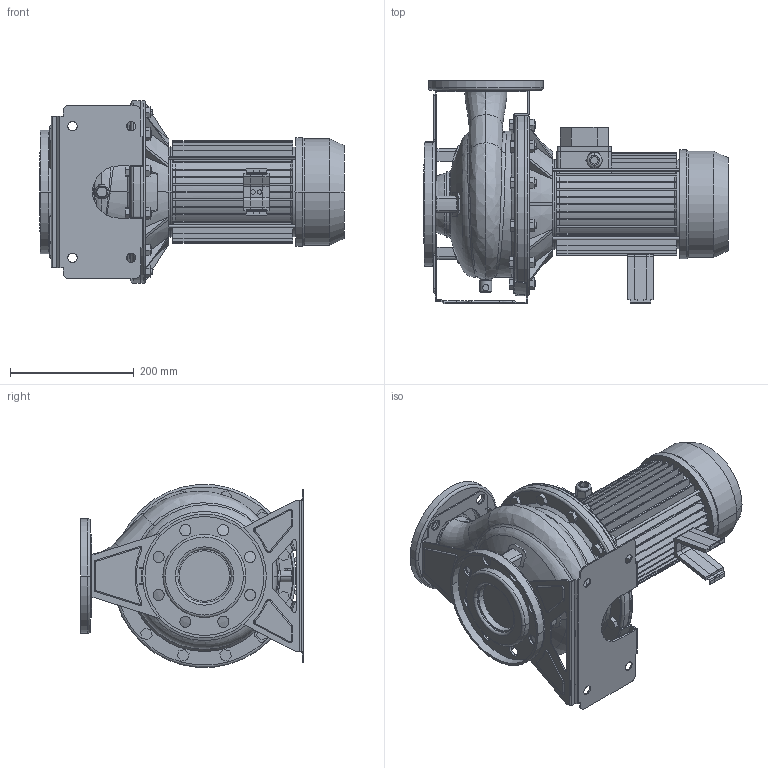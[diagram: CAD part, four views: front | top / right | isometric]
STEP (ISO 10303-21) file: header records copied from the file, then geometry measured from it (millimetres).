
FILE_DESCRIPTION((''),'2;1');
FILE_NAME('3M4_65-160_1_5_IE2_ASM','2012-03-14T',('Rosa'),('"Ebara Pumps Europe +39.444.706811"'),'PRO/ENGINEER BY PARAMETRIC TECHNOLOGY CORPORATION, 2009360','PRO/ENGINEER BY PARAMETRIC TECHNOLOGY CORPORATION, 2009360','');
FILE_SCHEMA(('AUTOMOTIVE_DESIGN { 1 0 10303 214 1 1 1 1 }'));
Length unit declared in the file: millimetre
Products named in the file (11): CORPO_65-160; ASP_65-160; FLANGIA_DIN_80_8_FORI; MAND_65-160; FLANGIA_DIN_65; BASE_3M_65-160; CORPO_SALDATO_65-160_ASM; SUPPORTO_3M_230_90; MEC_90X160_IE2; SOSTEGNO_72006; 3M4_65-160_1_5_IE2_ASM
Assembly tree (11 placements, depth 3):
  3M4_65-160_1_5_IE2_ASM
    CORPO_SALDATO_65-160_ASM
      CORPO_65-160
      ASP_65-160
      FLANGIA_DIN_80_8_FORI
      MAND_65-160
      FLANGIA_DIN_65
      BASE_3M_65-160
    SUPPORTO_3M_230_90
    MEC_90X160_IE2
    SOSTEGNO_72006  x2
Bounding box: 491 x 360 x 295.13 mm (x, y, z)
Volume: 10855977 mm3; surface area: 1355199.9 mm2
Topology: 13 solids, 13 shells, 1163 faces, 2975 edges, 1906 vertices
Faces by surface type: plane 643, cylinder 331, cone 90, torus 60, bspline 33, sphere 6
Entity records: 49551 total; most frequent: CARTESIAN_POINT 10172, DIRECTION 5894, ORIENTED_EDGE 5782, PRESENTATION_STYLE_ASSIGNMENT 2903, STYLED_ITEM 2903, CURVE_STYLE 2891, EDGE_CURVE 2891, AXIS2_PLACEMENT_3D 2114
